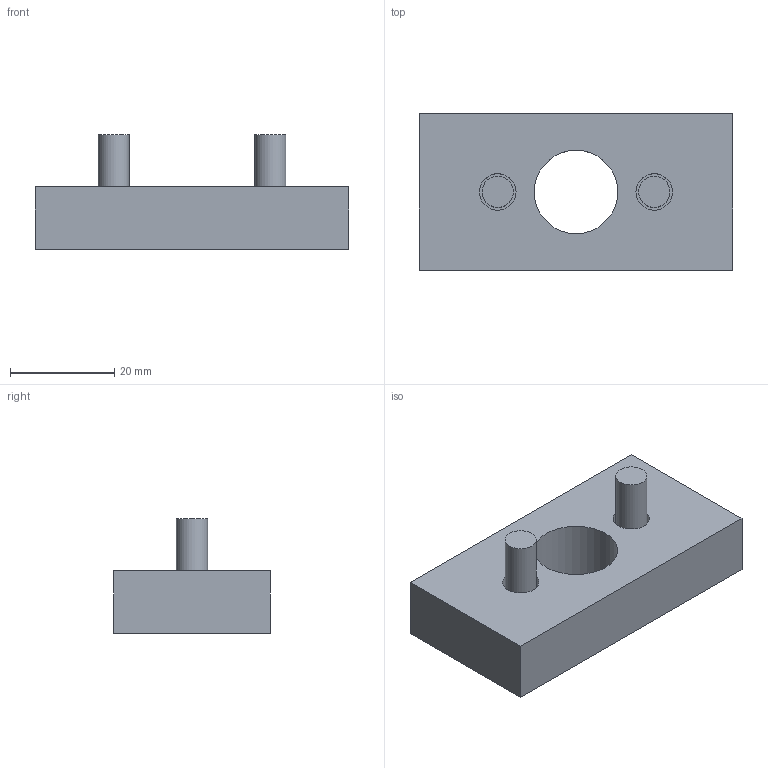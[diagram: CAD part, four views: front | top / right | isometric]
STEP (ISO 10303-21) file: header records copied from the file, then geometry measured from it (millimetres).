
FILE_DESCRIPTION((''),'2;1');
FILE_NAME('C:\Documents and Settings\古川典政\My Documents\Inventor\HP用\MasterData\ACCESSORY\M6\LFB-3060-6.stp','2008-08-05T14:45:40',(''),(''),'Autodesk Inventor 2008','Autodesk Inventor 2008','');
FILE_SCHEMA(('CONFIG_CONTROL_DESIGN'));
Length unit declared in the file: millimetre
Products named in the file (4): LFB-3060-6; LFB-3060-61; LFB-3060-62; LFB-3060-63
Assembly tree (3 placements, depth 2):
  LFB-3060-6
    LFB-3060-61
    LFB-3060-62
    LFB-3060-63
Bounding box: 60 x 30 x 22 mm (x, y, z)
Volume: 19263.4 mm3; surface area: 7767.2 mm2
Topology: 3 solids, 3 shells, 23 faces, 40 edges, 27 vertices
Faces by surface type: plane 13, cylinder 6, bspline 4
Full cylindrical faces by diameter (mm): 6 x2, 7 x1, 10 x2, 11 x1
Entity records: 658 total; most frequent: CARTESIAN_POINT 140, DIRECTION 100, ORIENTED_EDGE 60, AXIS2_PLACEMENT_3D 44, EDGE_LOOP 42, EDGE_CURVE 30, VERTEX_POINT 26, FACE_OUTER_BOUND 23
